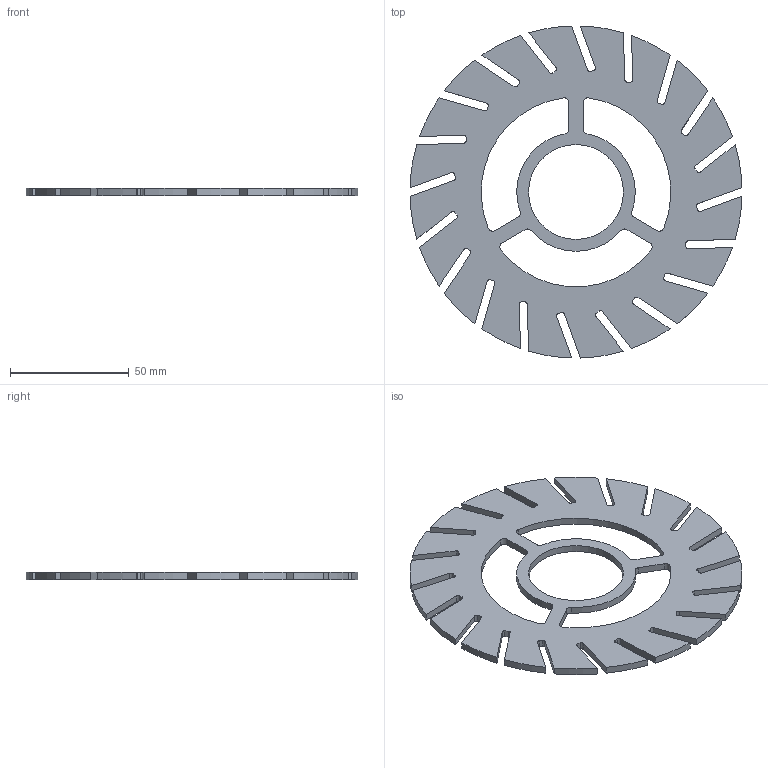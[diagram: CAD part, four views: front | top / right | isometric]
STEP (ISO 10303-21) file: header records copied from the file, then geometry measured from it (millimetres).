
FILE_DESCRIPTION(/* description */ (''),/* implementation_level */ '2;1');
FILE_NAME(/* name */ '/var/folders/_9/13ct5lzd5x98qhw9g85_2_nh0000gn/T/com.autodesk.mas.fusion360/Neutron/943564c6-42f3-4e19-aad3-18157b296f3c.stp',/* time_stamp */ '2019-05-06T23:42:53+02:00',/* author */ ('philip.daigreja@tu-dortmund.de'),/* organization */ (''),/* preprocessor_version */ 'ST-DEVELOPER v18',/* originating_system */ 'Autodesk Translation Framework v8.2.0.1029',/* authorisation */ '');
FILE_SCHEMA (('AUTOMOTIVE_DESIGN { 1 0 10303 214 3 1 1 }'));
Length unit declared in the file: millimetre
Products named in the file (1): Floor_Lamp_Bulb_Ring
Bounding box: 139.95 x 139.95 x 3 mm (x, y, z)
Volume: 29960.4 mm3; surface area: 25390.4 mm2
Topology: 1 solids, 1 shells, 147 faces, 435 edges, 290 vertices
Faces by surface type: cylinder 79, plane 68
Full cylindrical faces by diameter (mm): 40 x1
Entity records: 5016 total; most frequent: DIRECTION 889, CARTESIAN_POINT 873, ORIENTED_EDGE 870, EDGE_CURVE 435, AXIS2_PLACEMENT_3D 306, VERTEX_POINT 290, LINE 277, VECTOR 277
